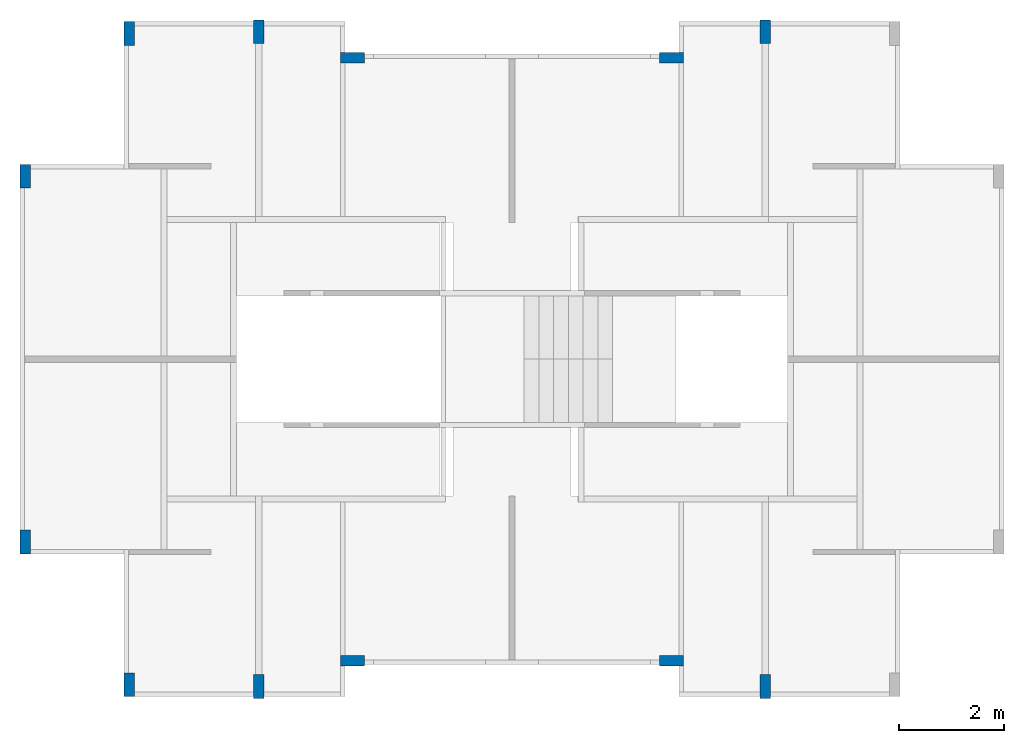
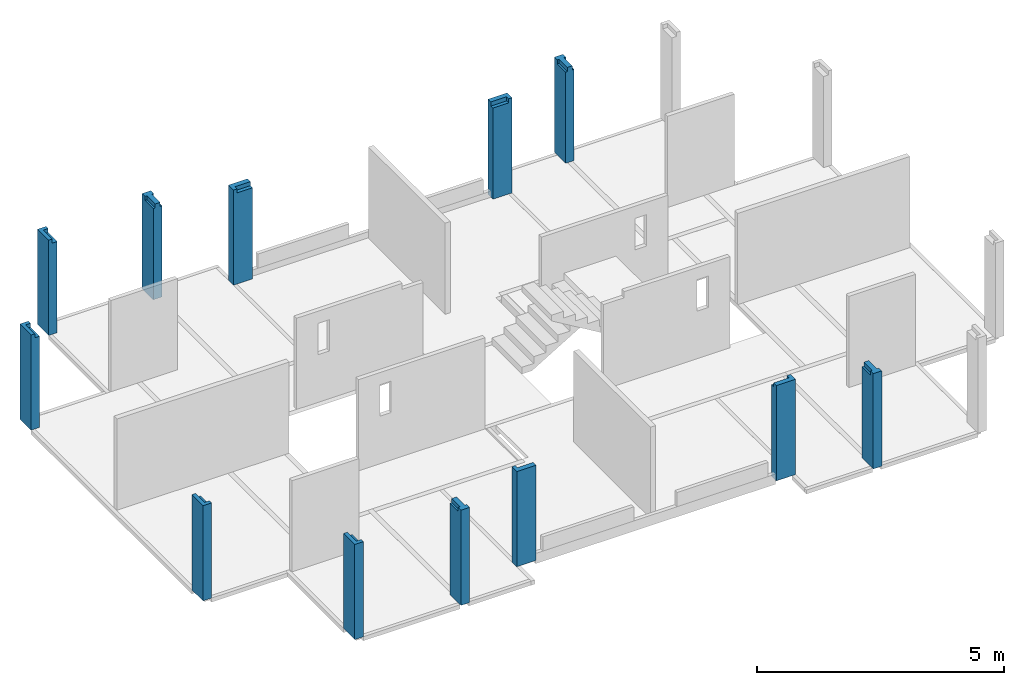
# One storey, part 5 of 6: 13 columns.
"""IFC4 building model written with IfcOpenShell, lengths in metres."""

from ifc_helpers import new_model, entity, si_unit, converted_unit, derived_unit, direction, frame, origin, place, context, subcontext, project, spatial, polygons, source, transform, mapped, material, type_object, type_shapes, element, save


model = new_model("IFC4")

# Units and contexts
model_context = context("Model", 3, precision=1e-05, world=origin(), true_north=direction((6.123031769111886e-17, 1.0)))
body_context = subcontext(model_context, "Body", "Model", "MODEL_VIEW")
ifc_project = project(units=[si_unit("LENGTHUNIT", "METRE"), si_unit("AREAUNIT", "SQUARE_METRE"), si_unit("VOLUMEUNIT", "CUBIC_METRE"), converted_unit("PLANEANGLEUNIT", "DEGREE", entity("IfcRatioMeasure", 0.017453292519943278), si_unit("PLANEANGLEUNIT", "RADIAN"), dimensions=[0, 0, 0, 0, 0, 0, 0]), si_unit("MASSUNIT", "GRAM", prefix="KILO"), derived_unit("MASSDENSITYUNIT", [(si_unit("MASSUNIT", "GRAM", prefix="KILO"), 1), (si_unit("LENGTHUNIT", "METRE"), -3)]), derived_unit("IONCONCENTRATIONUNIT", [(si_unit("MASSUNIT", "GRAM", prefix="KILO"), 1), (si_unit("LENGTHUNIT", "METRE"), -3)]), derived_unit("MOMENTOFINERTIAUNIT", [(si_unit("LENGTHUNIT", "METRE"), 4)]), si_unit("TIMEUNIT", "SECOND"), si_unit("FREQUENCYUNIT", "HERTZ"), si_unit("THERMODYNAMICTEMPERATUREUNIT", "DEGREE_CELSIUS"), derived_unit("THERMALTRANSMITTANCEUNIT", [(si_unit("MASSUNIT", "GRAM", prefix="KILO"), 1), (si_unit("THERMODYNAMICTEMPERATUREUNIT", "KELVIN"), -1), (si_unit("TIMEUNIT", "SECOND"), -3)]), derived_unit("THERMALCONDUCTANCEUNIT", [(si_unit("MASSUNIT", "GRAM", prefix="KILO"), 1), (si_unit("THERMODYNAMICTEMPERATUREUNIT", "KELVIN"), -1), (si_unit("TIMEUNIT", "SECOND"), -3), (si_unit("LENGTHUNIT", "METRE"), 1)]), derived_unit("VOLUMETRICFLOWRATEUNIT", [(si_unit("LENGTHUNIT", "METRE"), 3), (si_unit("TIMEUNIT", "SECOND"), -1)]), derived_unit("MASSFLOWRATEUNIT", [(si_unit("MASSUNIT", "GRAM", prefix="KILO"), 1), (si_unit("TIMEUNIT", "SECOND"), -1)]), derived_unit("ROTATIONALFREQUENCYUNIT", [(si_unit("TIMEUNIT", "SECOND"), -1)]), si_unit("ELECTRICCURRENTUNIT", "AMPERE"), si_unit("ELECTRICVOLTAGEUNIT", "VOLT"), si_unit("POWERUNIT", "WATT"), si_unit("FORCEUNIT", "NEWTON", prefix="KILO"), si_unit("ILLUMINANCEUNIT", "LUX"), si_unit("LUMINOUSFLUXUNIT", "LUMEN"), si_unit("LUMINOUSINTENSITYUNIT", "CANDELA"), derived_unit("USERDEFINED", [(si_unit("MASSUNIT", "GRAM", prefix="KILO"), -1), (si_unit("LENGTHUNIT", "METRE"), -2), (si_unit("TIMEUNIT", "SECOND"), 3), (si_unit("LUMINOUSFLUXUNIT", "LUMEN"), 1)]), derived_unit("USERDEFINED", [(si_unit("MASSUNIT", "GRAM", prefix="KILO"), 1), (si_unit("TIMEUNIT", "SECOND"), -3), (si_unit("LENGTHUNIT", "METRE"), 3), (si_unit("ELECTRICCURRENTUNIT", "AMPERE"), -2)]), derived_unit("SOUNDPOWERUNIT", [(si_unit("MASSUNIT", "GRAM", prefix="KILO"), 1), (si_unit("TIMEUNIT", "SECOND"), -3), (si_unit("LENGTHUNIT", "METRE"), 2)]), derived_unit("SOUNDPRESSUREUNIT", [(si_unit("MASSUNIT", "GRAM", prefix="KILO"), 1), (si_unit("LENGTHUNIT", "METRE"), -1), (si_unit("TIMEUNIT", "SECOND"), -2)]), derived_unit("LINEARVELOCITYUNIT", [(si_unit("LENGTHUNIT", "METRE"), 1), (si_unit("TIMEUNIT", "SECOND"), -1)]), si_unit("PRESSUREUNIT", "PASCAL"), derived_unit("USERDEFINED", [(si_unit("MASSUNIT", "GRAM", prefix="KILO"), 1), (si_unit("LENGTHUNIT", "METRE"), -2), (si_unit("TIMEUNIT", "SECOND"), -2)]), derived_unit("LINEARFORCEUNIT", [(si_unit("MASSUNIT", "GRAM", prefix="KILO"), 1), (si_unit("TIMEUNIT", "SECOND"), -2)]), derived_unit("PLANARFORCEUNIT", [(si_unit("MASSUNIT", "GRAM", prefix="KILO"), 1), (si_unit("LENGTHUNIT", "METRE"), -1), (si_unit("TIMEUNIT", "SECOND"), -2)]), derived_unit("SPECIFICHEATCAPACITYUNIT", [(si_unit("THERMODYNAMICTEMPERATUREUNIT", "KELVIN"), -1), (si_unit("LENGTHUNIT", "METRE"), 2), (si_unit("TIMEUNIT", "SECOND"), -2)]), derived_unit("HEATINGVALUEUNIT", [(si_unit("LENGTHUNIT", "METRE"), 2), (si_unit("TIMEUNIT", "SECOND"), -2)]), derived_unit("VAPORPERMEABILITYUNIT", [(si_unit("LENGTHUNIT", "METRE"), -1), (si_unit("TIMEUNIT", "SECOND"), 1)]), derived_unit("DYNAMICVISCOSITYUNIT", [(si_unit("MASSUNIT", "GRAM", prefix="KILO"), 1), (si_unit("TIMEUNIT", "SECOND"), -1), (si_unit("LENGTHUNIT", "METRE"), -1)]), derived_unit("THERMALEXPANSIONCOEFFICIENTUNIT", [(si_unit("THERMODYNAMICTEMPERATUREUNIT", "KELVIN"), -1)]), derived_unit("MODULUSOFELASTICITYUNIT", [(si_unit("MASSUNIT", "GRAM", prefix="KILO"), 1), (si_unit("LENGTHUNIT", "METRE"), -1), (si_unit("TIMEUNIT", "SECOND"), -2)]), derived_unit("ISOTHERMALMOISTURECAPACITYUNIT", [(si_unit("LENGTHUNIT", "METRE"), 3), (si_unit("MASSUNIT", "GRAM", prefix="KILO"), -1)]), derived_unit("MOISTUREDIFFUSIVITYUNIT", [(si_unit("TIMEUNIT", "SECOND"), -1), (si_unit("LENGTHUNIT", "METRE"), 2)])], contexts=[model_context])

# Site, building, storey
site_placement = place(None, origin())
site = spatial("IfcSite", under=ifc_project, at=site_placement, Name="Default", CompositionType="ELEMENT")
building_placement = place(site_placement, origin())
building = spatial("IfcBuilding", under=site, at=building_placement, Name="Las nubes", CompositionType="ELEMENT")
storey_placement = place(building_placement, frame((0.0, 0.0, 4.700000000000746)))
storey = spatial("IfcBuildingStorey", under=building, at=storey_placement, Name="PISO 3", CompositionType="ELEMENT", Elevation=4.700000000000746)

# Columns
ifc_material = material(Name="Concrete, Cast-in-Place gray", Category="Materials")
column_type_1 = type_object("IfcColumnType", Name="M_Concrete-Rectangular-Column:300 x 450mm", PredefinedType="COLUMN", material=ifc_material)
shared_shape_1 = source(origin(), body_context, "Body", "Tessellation", [
    polygons([(0.19999999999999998, 0.45000000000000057, -5.414335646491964e-16), (0.19999999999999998, 5.414335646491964e-16, -5.414335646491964e-16), (0.0, 5.414335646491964e-16, -5.414335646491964e-16), (0.0, 0.45000000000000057, -5.414335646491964e-16), (0.19999999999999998, 0.45000000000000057, 2.250000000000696), (0.19999999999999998, 0.45000000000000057, 2.3500000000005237), (0.19999999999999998, 0.36499999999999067, 2.3500000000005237), (0.19999999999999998, 0.36499999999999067, 2.250000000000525), (0.19999999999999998, 5.414335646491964e-16, 2.250000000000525), (0.08499999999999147, 5.414335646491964e-16, 2.250000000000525), (0.08499999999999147, 5.414335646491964e-16, 2.3500000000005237), (0.0, 5.414335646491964e-16, 2.3500000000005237), (0.0, 5.414335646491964e-16, 2.250000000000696), (0.0, 0.45000000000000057, 2.3500000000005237), (0.08499999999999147, 0.36499999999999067, 2.3500000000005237), (0.08499999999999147, 0.36499999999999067, 2.250000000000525)], [[[1, 2, 3, 4]], [[2, 1, 5, 6, 7, 8, 9]], [[3, 2, 9, 10, 11, 12, 13]], [[4, 3, 13, 12, 14]], [[1, 4, 14, 6, 5]], [[14, 12, 11, 15, 7, 6]], [[8, 16, 10, 9]], [[16, 15, 11, 10]], [[15, 16, 8, 7]]], closed=True),
])
type_shapes(column_type_1, [shared_shape_1])
column_1_placement = place(storey_placement, frame((-0.027499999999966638, -3.175000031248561, 0.0)))
element("IfcColumn", 1, at=column_1_placement, inside=storey, type_object=column_type_1, material=ifc_material, Name="M_Concrete-Rectangular-Column:300 x 450mm", ObjectType="M_Concrete-Rectangular-Column:300 x 450mm", PredefinedType="COLUMN", context=body_context, shape_type="MappedRepresentation", body=[
    mapped(shared_shape_1, transform((0.0, 0.0, 0.0), scale=1.0)),
])
column_type_2 = type_object("IfcColumnType", Name="M_Concrete-Rectangular-Column:300 x 450mm", PredefinedType="COLUMN", material=ifc_material)
shared_shape_2 = source(origin(), body_context, "Body", "Tessellation", [
    polygons([(0.19999999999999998, 0.45000000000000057, -5.414335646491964e-16), (0.19999999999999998, 0.0, -5.414335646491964e-16), (0.0, 0.0, -5.414335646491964e-16), (0.0, 0.45000000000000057, -5.414335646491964e-16), (0.19999999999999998, 0.45000000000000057, 2.250000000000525), (0.19999999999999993, 0.08499488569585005, 2.250000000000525), (0.19999999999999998, 0.08499488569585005, 2.3500000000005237), (0.19999999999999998, 0.0, 2.3500000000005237), (0.19999999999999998, 0.0, 2.250000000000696), (0.0, 0.0, 2.3500000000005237), (0.0, 0.45000000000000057, 2.3500000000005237), (0.0, 0.45000000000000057, 2.250000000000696), (0.08500000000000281, 0.45000000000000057, 2.3500000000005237), (0.08500000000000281, 0.45000000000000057, 2.250000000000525), (0.08500000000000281, 0.08499488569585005, 2.3500000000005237), (0.08500000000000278, 0.08499488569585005, 2.250000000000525)], [[[1, 2, 3, 4]], [[2, 1, 5, 6, 7, 8, 9]], [[3, 2, 9, 8, 10]], [[4, 3, 10, 11, 12]], [[1, 4, 12, 11, 13, 14, 5]], [[10, 8, 7, 15, 13, 11]], [[14, 16, 6, 5]], [[16, 15, 7, 6]], [[15, 16, 14, 13]]], closed=True),
])
type_shapes(column_type_2, [shared_shape_2])
column_2_placement = place(storey_placement, frame((-0.02749999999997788, -10.124994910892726, 0.0)))
element("IfcColumn", 2, at=column_2_placement, inside=storey, type_object=column_type_2, material=ifc_material, Name="M_Concrete-Rectangular-Column:300 x 450mm", ObjectType="M_Concrete-Rectangular-Column:300 x 450mm", PredefinedType="COLUMN", context=body_context, shape_type="MappedRepresentation", body=[
    mapped(shared_shape_2, transform((0.0, 0.0, 0.0), scale=1.0)),
])
column_type_3 = type_object("IfcColumnType", Name="M_Concrete-Rectangular-Column:300 x 450mm", PredefinedType="COLUMN", material=ifc_material)
shared_shape_3 = source(origin(), body_context, "Body", "Tessellation", [
    polygons([(0.2, 0.45, -5.414335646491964e-16), (0.2, 6.767919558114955e-17, -5.414335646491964e-16), (0.0, 6.767919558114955e-17, -5.414335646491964e-16), (0.0, 0.45, -5.414335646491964e-16), (0.2, 0.45, 2.3500000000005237), (0.2, 0.3649999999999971, 2.3500000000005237), (0.2, 0.3649999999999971, 2.250000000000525), (0.2, 6.767919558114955e-17, 2.250000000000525), (0.08500000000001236, 6.767919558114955e-17, 2.250000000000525), (0.08500000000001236, 6.767919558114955e-17, 2.3500000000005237), (0.0, 6.767919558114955e-17, 2.3500000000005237), (0.0, 6.767919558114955e-17, 2.250000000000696), (0.0, 0.45, 2.3500000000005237), (0.08500000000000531, 0.3649999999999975, 2.3500000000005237), (0.08500000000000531, 0.3649999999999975, 2.250000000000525)], [[[1, 2, 3, 4]], [[2, 1, 5, 6, 7, 8]], [[3, 2, 8, 9, 10, 11, 12]], [[4, 3, 12, 11, 13]], [[1, 4, 13, 5]], [[13, 11, 10, 14, 6, 5]], [[15, 9, 8, 7]], [[14, 15, 7, 6]], [[15, 14, 10, 9]]], closed=True),
])
type_shapes(column_type_3, [shared_shape_3])
column_3_placement = place(storey_placement, frame((1.94749999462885, -0.46000002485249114, 0.0)))
element("IfcColumn", 3, at=column_3_placement, inside=storey, type_object=column_type_3, material=ifc_material, Name="M_Concrete-Rectangular-Column:300 x 450mm", ObjectType="M_Concrete-Rectangular-Column:300 x 450mm", PredefinedType="COLUMN", context=body_context, shape_type="MappedRepresentation", body=[
    mapped(shared_shape_3, transform((0.0, 0.0, 0.0), scale=1.0)),
])
column_type_4 = type_object("IfcColumnType", Name="M_Concrete-Rectangular-Column:300 x 450mm", PredefinedType="COLUMN", material=ifc_material)
shared_shape_4 = source(origin(), body_context, "Body", "Tessellation", [
    polygons([(0.2, 0.45000000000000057, -5.414335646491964e-16), (0.2, 6.09112760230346e-16, -5.414335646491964e-16), (0.0, 6.09112760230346e-16, -5.414335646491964e-16), (0.0, 0.45000000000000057, -5.414335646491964e-16), (0.2, 0.45000000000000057, 2.3500000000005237), (0.2, 0.42002052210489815, 2.350000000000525), (0.2, 0.3350000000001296, 2.3500000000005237), (0.2, 0.3350000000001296, 2.250000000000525), (0.2, 6.09112760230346e-16, 2.250000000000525), (0.15749999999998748, 3.383959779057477e-16, 2.250000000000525), (0.15749999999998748, 6.09112760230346e-16, 2.3500000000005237), (0.04249999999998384, 6.09112760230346e-16, 2.3500000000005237), (0.04249999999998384, 6.09112760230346e-16, 2.250000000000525), (0.0, 6.09112760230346e-16, 2.250000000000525), (0.0, 0.33500000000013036, 2.250000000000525), (0.0, 0.33500000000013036, 2.3500000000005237), (0.0, 0.4200205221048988, 2.350000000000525), (0.0, 0.45000000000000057, 2.3500000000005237), (0.042499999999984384, 0.3350000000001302, 2.3500000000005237), (0.15749999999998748, 0.3350000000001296, 2.3500000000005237), (0.042499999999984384, 0.3350000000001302, 2.250000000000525), (0.15749999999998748, 0.3350000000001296, 2.250000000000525)], [[[1, 2, 3, 4]], [[2, 1, 5, 6, 7, 8, 9]], [[3, 2, 9, 10, 11, 12, 13, 14]], [[4, 3, 14, 15, 16, 17, 18]], [[1, 4, 18, 5]], [[5, 18, 17, 16, 19, 12, 11, 20, 7, 6]], [[13, 21, 15, 14]], [[21, 19, 16, 15]], [[19, 21, 13, 12]], [[8, 22, 10, 9]], [[22, 20, 11, 10]], [[20, 22, 8, 7]]], closed=True),
])
type_shapes(column_type_4, [shared_shape_4])
column_4_placement = place(storey_placement, frame((4.409999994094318, -0.4300000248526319, 0.0)))
element("IfcColumn", 4, at=column_4_placement, inside=storey, type_object=column_type_4, material=ifc_material, Name="M_Concrete-Rectangular-Column:300 x 450mm", ObjectType="M_Concrete-Rectangular-Column:300 x 450mm", PredefinedType="COLUMN", context=body_context, shape_type="MappedRepresentation", body=[
    mapped(shared_shape_4, transform((0.0, 0.0, 0.0), scale=1.0)),
])
column_type_5 = type_object("IfcColumnType", Name="M_Concrete-Rectangular-Column:300 x 450mm", PredefinedType="COLUMN", material=ifc_material)
shared_shape_5 = source(origin(), body_context, "Body", "Tessellation", [
    polygons([(2.1657342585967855e-15, 0.20000000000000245, -5.414335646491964e-16), (0.45000000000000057, 0.2, -5.414335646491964e-16), (0.45000000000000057, 0.0, -5.414335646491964e-16), (1.0828671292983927e-15, 2.436451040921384e-15, -5.414335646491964e-16), (1.0828671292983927e-15, 0.20000000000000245, 2.250000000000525), (2.1657342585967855e-15, 0.20000000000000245, 2.3500000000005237), (0.08500000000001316, 0.2000000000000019, 2.350000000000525), (0.45000000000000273, 0.2, 2.3500000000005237), (0.45000000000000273, 0.08500000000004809, 2.3500000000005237), (0.45000000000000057, 0.08500000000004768, 2.2500000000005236), (0.45000000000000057, 0.0, 2.250000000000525), (0.08500000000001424, 1.7596590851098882e-15, 2.250000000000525), (0.08500000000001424, 2.0303758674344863e-15, 2.3500000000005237), (1.0828671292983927e-15, 2.436451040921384e-15, 2.3500000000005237), (1.0828671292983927e-15, 2.436451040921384e-15, 2.250000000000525), (0.08500000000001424, 0.08500000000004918, 2.3500000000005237), (0.08500000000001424, 0.08500000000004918, 2.250000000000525)], [[[1, 2, 3, 4]], [[2, 1, 5, 6, 7, 8]], [[3, 2, 8, 9, 10, 11]], [[4, 3, 11, 12, 13, 14, 15]], [[1, 4, 15, 14, 6, 5]], [[8, 7, 6, 14, 13, 16, 9]], [[10, 17, 12, 11]], [[17, 16, 13, 12]], [[16, 17, 10, 9]]], closed=True),
])
type_shapes(column_type_5, [shared_shape_5])
column_5_placement = place(storey_placement, frame((6.067499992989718, -0.7950000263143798, 0.0)))
element("IfcColumn", 5, at=column_5_placement, inside=storey, type_object=column_type_5, material=ifc_material, Name="M_Concrete-Rectangular-Column:300 x 450mm", ObjectType="M_Concrete-Rectangular-Column:300 x 450mm", PredefinedType="COLUMN", context=body_context, shape_type="MappedRepresentation", body=[
    mapped(shared_shape_5, transform((0.0, 0.0, 0.0), scale=1.0)),
])
column_type_6 = type_object("IfcColumnType", Name="M_Concrete-Rectangular-Column:300 x 450mm", PredefinedType="COLUMN", material=ifc_material)
shared_shape_6 = source(origin(), body_context, "Body", "Tessellation", [
    polygons([(0.0, 6.09112760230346e-16, -5.414335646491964e-16), (0.0, 0.45000000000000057, -5.414335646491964e-16), (0.2, 0.45000000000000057, -5.414335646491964e-16), (0.2, 6.09112760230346e-16, -5.414335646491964e-16), (0.0, 6.09112760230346e-16, 2.250000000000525), (0.0, 0.3350000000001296, 2.250000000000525), (0.0, 0.3350000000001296, 2.3500000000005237), (0.0, 0.41999999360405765, 2.350000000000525), (0.0, 0.45000000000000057, 2.3500000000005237), (0.2, 5.414335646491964e-16, 2.250000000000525), (0.15749999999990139, 3.383959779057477e-16, 2.250000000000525), (0.15749999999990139, 5.414335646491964e-16, 2.3500000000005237), (0.04249999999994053, 6.09112760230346e-16, 2.3500000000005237), (0.04249999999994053, 3.383959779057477e-16, 2.2500000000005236), (0.2, 0.45000000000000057, 2.3500000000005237), (0.2, 0.41999999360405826, 2.350000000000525), (0.2, 0.33500000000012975, 2.3500000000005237), (0.2, 0.33500000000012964, 2.250000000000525), (0.04249999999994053, 0.3350000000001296, 2.3500000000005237), (0.15749999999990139, 0.3350000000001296, 2.3500000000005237), (0.04249999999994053, 0.3350000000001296, 2.250000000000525), (0.15749999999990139, 0.3350000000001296, 2.250000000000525)], [[[1, 2, 3, 4]], [[2, 1, 5, 6, 7, 8, 9]], [[1, 4, 10, 11, 12, 13, 14, 5]], [[4, 3, 15, 16, 17, 18, 10]], [[3, 2, 9, 15]], [[15, 9, 8, 7, 19, 13, 12, 20, 17, 16]], [[14, 21, 6, 5]], [[21, 19, 7, 6]], [[19, 21, 14, 13]], [[18, 22, 11, 10]], [[20, 22, 18, 17]], [[22, 20, 12, 11]]], closed=True),
])
type_shapes(column_type_6, [shared_shape_6])
column_6_placement = place(storey_placement, frame((14.035000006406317, -0.4300000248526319, 0.0)))
element("IfcColumn", 6, at=column_6_placement, inside=storey, type_object=column_type_6, material=ifc_material, Name="M_Concrete-Rectangular-Column:300 x 450mm", ObjectType="M_Concrete-Rectangular-Column:300 x 450mm", PredefinedType="COLUMN", context=body_context, shape_type="MappedRepresentation", body=[
    mapped(shared_shape_6, transform((0.0, 0.0, 0.0), scale=1.0)),
])
column_type_7 = type_object("IfcColumnType", Name="M_Concrete-Rectangular-Column:300 x 450mm", PredefinedType="COLUMN", material=ifc_material)
shared_shape_7 = source(origin(), body_context, "Body", "Tessellation", [
    polygons([(0.0, 0.2, -5.414335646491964e-16), (0.4500000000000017, 0.20000000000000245, -5.414335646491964e-16), (0.4500000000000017, 2.436451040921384e-15, -5.414335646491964e-16), (0.0, 0.0, -5.414335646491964e-16), (0.0, 0.2, 2.3500000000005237), (0.364999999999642, 0.2000000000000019, 2.350000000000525), (0.4500000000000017, 0.20000000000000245, 2.3500000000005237), (0.4500000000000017, 0.20000000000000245, 2.250000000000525), (0.0, 0.0, 2.250000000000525), (0.0, 0.08500000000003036, 2.250000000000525), (0.0, 0.08500000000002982, 2.3500000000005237), (0.4500000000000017, 2.436451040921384e-15, 2.250000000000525), (0.4500000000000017, 2.436451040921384e-15, 2.3500000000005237), (0.36499999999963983, 2.0303758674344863e-15, 2.3500000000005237), (0.36499999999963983, 2.1657342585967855e-15, 2.250000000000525), (0.36499999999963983, 0.08500000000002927, 2.3500000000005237), (0.36499999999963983, 0.08500000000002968, 2.250000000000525)], [[[1, 2, 3, 4]], [[2, 1, 5, 6, 7, 8]], [[1, 4, 9, 10, 11, 5]], [[4, 3, 12, 13, 14, 15, 9]], [[3, 2, 8, 7, 13, 12]], [[7, 6, 5, 11, 16, 14, 13]], [[15, 17, 10, 9]], [[17, 16, 11, 10]], [[16, 17, 15, 14]]], closed=True),
])
type_shapes(column_type_7, [shared_shape_7])
column_7_placement = place(storey_placement, frame((12.127500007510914, -0.7950000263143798, 0.0)))
element("IfcColumn", 7, at=column_7_placement, inside=storey, type_object=column_type_7, material=ifc_material, Name="M_Concrete-Rectangular-Column:300 x 450mm", ObjectType="M_Concrete-Rectangular-Column:300 x 450mm", PredefinedType="COLUMN", context=body_context, shape_type="MappedRepresentation", body=[
    mapped(shared_shape_7, transform((0.0, 0.0, 0.0), scale=1.0)),
])
column_type_8 = type_object("IfcColumnType", Name="M_Concrete-Rectangular-Column:300 x 450mm", PredefinedType="COLUMN", material=ifc_material)
shared_shape_8 = source(origin(), body_context, "Body", "Tessellation", [
    polygons([(0.20000000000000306, 0.4500000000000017, -5.414335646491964e-16), (0.19999999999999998, 2.1657342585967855e-15, -5.414335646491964e-16), (4.229949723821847e-18, 2.1657342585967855e-15, -5.414335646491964e-16), (3.0794033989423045e-15, 0.4500000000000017, -5.414335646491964e-16), (0.20000000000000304, 0.45000000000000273, 2.250000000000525), (0.2000000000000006, 0.08499999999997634, 2.250000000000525), (0.2000000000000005, 0.08499999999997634, 2.3500000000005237), (0.19999999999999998, 0.0, 2.3500000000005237), (3.0751734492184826e-15, 0.45000000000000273, 2.250000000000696), (3.0794033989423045e-15, 0.4500000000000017, 2.3500000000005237), (0.08500000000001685, 0.4500000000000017, 2.3500000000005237), (0.08500000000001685, 0.4500000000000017, 2.250000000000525), (4.229949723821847e-18, 2.1657342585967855e-15, 2.3500000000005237), (0.08500000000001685, 0.08499999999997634, 2.3500000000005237), (0.08500000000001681, 0.08499999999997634, 2.250000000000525)], [[[1, 2, 3, 4]], [[2, 1, 5, 6, 7, 8]], [[1, 4, 9, 10, 11, 12, 5]], [[4, 3, 13, 10, 9]], [[3, 2, 8, 13]], [[10, 13, 8, 7, 14, 11]], [[12, 15, 6, 5]], [[15, 14, 7, 6]], [[14, 15, 12, 11]]], closed=True),
])
type_shapes(column_type_8, [shared_shape_8])
column_8_placement = place(storey_placement, frame((-0.027499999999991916, -10.125000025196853, 0.0)))
element("IfcColumn", 8, at=column_8_placement, inside=storey, type_object=column_type_8, material=ifc_material, Name="M_Concrete-Rectangular-Column:300 x 450mm", ObjectType="M_Concrete-Rectangular-Column:300 x 450mm", PredefinedType="COLUMN", context=body_context, shape_type="MappedRepresentation", body=[
    mapped(shared_shape_8, transform((0.0, 0.0, 0.0), scale=1.0)),
])
column_type_9 = type_object("IfcColumnType", Name="M_Concrete-Rectangular-Column:300 x 450mm", PredefinedType="COLUMN", material=ifc_material)
shared_shape_9 = source(origin(), body_context, "Body", "Tessellation", [
    polygons([(0.20000000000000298, 0.4500000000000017, -5.414335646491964e-16), (0.19999999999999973, 0.0, -5.414335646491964e-16), (-2.707167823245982e-16, 2.1657342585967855e-15, -5.414335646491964e-16), (2.97788460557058e-15, 0.4500000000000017, -5.414335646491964e-16), (0.20000000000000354, 0.45000000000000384, 2.250000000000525), (0.20000000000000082, 0.08499999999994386, 2.250000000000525), (0.20000000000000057, 0.08499999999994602, 2.3500000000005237), (0.19999999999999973, 0.0, 2.3500000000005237), (0.2, 2.1657342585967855e-15, 2.250000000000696), (3.2486013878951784e-15, 0.45000000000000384, 2.250000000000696), (2.97788460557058e-15, 0.4500000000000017, 2.3500000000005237), (0.08500000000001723, 0.4500000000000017, 2.3500000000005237), (0.08500000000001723, 0.45000000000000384, 2.250000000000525), (-2.707167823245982e-16, 2.1657342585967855e-15, 2.3500000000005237), (0.08500000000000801, 0.08499999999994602, 2.3500000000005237), (0.08500000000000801, 0.08499999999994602, 2.250000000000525)], [[[1, 2, 3, 4]], [[2, 1, 5, 6, 7, 8, 9]], [[1, 4, 10, 11, 12, 13, 5]], [[4, 3, 14, 11, 10]], [[3, 2, 9, 8, 14]], [[11, 14, 8, 7, 15, 12]], [[16, 6, 5, 13]], [[16, 15, 7, 6]], [[15, 16, 13, 12]]], closed=True),
])
type_shapes(column_type_9, [shared_shape_9])
column_9_placement = place(storey_placement, frame((1.9474999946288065, -12.840000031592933, 0.0)))
element("IfcColumn", 9, at=column_9_placement, inside=storey, type_object=column_type_9, material=ifc_material, Name="M_Concrete-Rectangular-Column:300 x 450mm", ObjectType="M_Concrete-Rectangular-Column:300 x 450mm", PredefinedType="COLUMN", context=body_context, shape_type="MappedRepresentation", body=[
    mapped(shared_shape_9, transform((0.0, 0.0, 0.0), scale=1.0)),
])
column_type_10 = type_object("IfcColumnType", Name="M_Concrete-Rectangular-Column:300 x 450mm", PredefinedType="COLUMN", material=ifc_material)
shared_shape_10 = source(origin(), body_context, "Body", "Tessellation", [
    polygons([(0.20000000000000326, 0.4499999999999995, -5.414335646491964e-16), (0.2, -2.1657342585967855e-15, -5.414335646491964e-16), (0.0, 0.0, -5.414335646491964e-16), (3.2486013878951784e-15, 0.4499999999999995, -5.414335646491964e-16), (0.20000000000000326, 0.4499999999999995, 2.250000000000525), (0.2000000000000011, 0.11499999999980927, 2.250000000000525), (0.20000000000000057, 0.11499999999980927, 2.3500000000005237), (0.2, 0.029999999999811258, 2.350000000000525), (0.2, -2.1657342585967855e-15, 2.3500000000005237), (3.2486013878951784e-15, 0.4499999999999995, 2.250000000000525), (0.042499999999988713, 0.4500000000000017, 2.250000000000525), (0.04249999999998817, 0.4499999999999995, 2.3500000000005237), (0.15750000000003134, 0.4499999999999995, 2.3500000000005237), (0.15750000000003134, 0.4500000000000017, 2.250000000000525), (0.0, 0.0, 2.3500000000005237), (0.0, 0.029999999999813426, 2.350000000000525), (5.414335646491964e-16, 0.1149999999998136, 2.3500000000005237), (5.414335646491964e-16, 0.1149999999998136, 2.250000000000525), (0.15750000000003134, 0.11499999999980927, 2.3500000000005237), (0.04249999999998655, 0.1149999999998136, 2.3500000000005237), (0.04249999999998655, 0.1149999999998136, 2.250000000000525), (0.15750000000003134, 0.11499999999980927, 2.250000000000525)], [[[1, 2, 3, 4]], [[2, 1, 5, 6, 7, 8, 9]], [[1, 4, 10, 11, 12, 13, 14, 5]], [[4, 3, 15, 16, 17, 18, 10]], [[3, 2, 9, 15]], [[15, 9, 8, 7, 19, 13, 12, 20, 17, 16]], [[18, 21, 11, 10]], [[20, 21, 18, 17]], [[21, 20, 12, 11]], [[14, 22, 6, 5]], [[22, 19, 7, 6]], [[19, 22, 14, 13]]], closed=True),
])
type_shapes(column_type_10, [shared_shape_10])
column_10_placement = place(storey_placement, frame((4.4099999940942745, -12.870000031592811, 0.0)))
element("IfcColumn", 10, at=column_10_placement, inside=storey, type_object=column_type_10, material=ifc_material, Name="M_Concrete-Rectangular-Column:300 x 450mm", ObjectType="M_Concrete-Rectangular-Column:300 x 450mm", PredefinedType="COLUMN", context=body_context, shape_type="MappedRepresentation", body=[
    mapped(shared_shape_10, transform((0.0, 0.0, 0.0), scale=1.0)),
])
column_type_11 = type_object("IfcColumnType", Name="M_Concrete-Rectangular-Column:300 x 450mm", PredefinedType="COLUMN", material=ifc_material)
shared_shape_11 = source(origin(), body_context, "Body", "Tessellation", [
    polygons([(0.4499999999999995, 0.0, -5.414335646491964e-16), (0.0, 0.0, -5.414335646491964e-16), (0.0, 0.2, -5.414335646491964e-16), (0.4499999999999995, 0.2, -5.414335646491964e-16), (0.4499999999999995, 0.0, 2.3500000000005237), (0.08500000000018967, 0.0, 2.350000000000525), (0.0, 0.0, 2.3500000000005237), (0.0, 0.0, 2.250000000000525), (0.4499999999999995, 0.2, 2.250000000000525), (0.4499999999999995, 0.11500000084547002, 2.250000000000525), (0.4499999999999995, 0.11500000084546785, 2.3500000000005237), (0.0, 0.2, 2.250000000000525), (0.0, 0.2, 2.3500000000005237), (0.08500000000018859, 0.2, 2.3500000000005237), (0.08500000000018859, 0.2, 2.250000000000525), (0.08500000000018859, 0.11500000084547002, 2.3500000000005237), (0.08500000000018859, 0.11500000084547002, 2.250000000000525)], [[[1, 2, 3, 4]], [[2, 1, 5, 6, 7, 8]], [[1, 4, 9, 10, 11, 5]], [[4, 3, 12, 13, 14, 15, 9]], [[3, 2, 8, 7, 13, 12]], [[7, 6, 5, 11, 16, 14, 13]], [[15, 17, 10, 9]], [[17, 16, 11, 10]], [[16, 17, 15, 14]]], closed=True),
])
type_shapes(column_type_11, [shared_shape_11])
column_11_placement = place(storey_placement, frame((6.067499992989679, -12.255000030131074, 0.0)))
element("IfcColumn", 11, at=column_11_placement, inside=storey, type_object=column_type_11, material=ifc_material, Name="M_Concrete-Rectangular-Column:300 x 450mm", ObjectType="M_Concrete-Rectangular-Column:300 x 450mm", PredefinedType="COLUMN", context=body_context, shape_type="MappedRepresentation", body=[
    mapped(shared_shape_11, transform((0.0, 0.0, 0.0), scale=1.0)),
])
column_type_12 = type_object("IfcColumnType", Name="M_Concrete-Rectangular-Column:300 x 450mm", PredefinedType="COLUMN", material=ifc_material)
shared_shape_12 = source(origin(), body_context, "Body", "Tessellation", [
    polygons([(0.0, 0.0, -5.414335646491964e-16), (2.1657342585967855e-15, 0.4499999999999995, -5.414335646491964e-16), (0.20000000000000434, 0.4499999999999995, -5.414335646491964e-16), (0.2, -2.1657342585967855e-15, -5.414335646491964e-16), (0.0, 0.0, 2.3500000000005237), (0.0, 0.030001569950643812, 2.350000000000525), (0.0, 0.11499999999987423, 2.3500000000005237), (2.1657342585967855e-15, 0.11499999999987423, 2.250000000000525), (6.497202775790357e-15, 0.4499999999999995, 2.250000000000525), (0.04249999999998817, 0.4499999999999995, 2.250000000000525), (0.04249999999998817, 0.4499999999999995, 2.3500000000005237), (0.15749999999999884, 0.44999999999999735, 2.3500000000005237), (0.15749999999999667, 0.4499999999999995, 2.250000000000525), (0.20000000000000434, 0.4499999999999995, 2.250000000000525), (0.2, 0.11499999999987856, 2.250000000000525), (0.2, 0.11499999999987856, 2.3500000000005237), (0.2, 0.03000156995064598, 2.350000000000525), (0.2, -2.1657342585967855e-15, 2.3500000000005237), (0.15749999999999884, 0.11499999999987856, 2.3500000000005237), (0.04249999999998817, 0.11499999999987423, 2.3500000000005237), (0.04249999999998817, 0.11499999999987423, 2.250000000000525), (0.15749999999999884, 0.11499999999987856, 2.250000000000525)], [[[1, 2, 3, 4]], [[2, 1, 5, 6, 7, 8, 9]], [[3, 2, 9, 10, 11, 12, 13, 14]], [[4, 3, 14, 15, 16, 17, 18]], [[1, 4, 18, 5]], [[5, 18, 17, 16, 19, 12, 11, 20, 7, 6]], [[21, 10, 9, 8]], [[20, 21, 8, 7]], [[21, 20, 11, 10]], [[13, 22, 15, 14]], [[22, 19, 16, 15]], [[19, 22, 13, 12]]], closed=True),
])
type_shapes(column_type_12, [shared_shape_12])
column_12_placement = place(storey_placement, frame((14.035000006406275, -12.870000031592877, 0.0)))
element("IfcColumn", 12, at=column_12_placement, inside=storey, type_object=column_type_12, material=ifc_material, Name="M_Concrete-Rectangular-Column:300 x 450mm", ObjectType="M_Concrete-Rectangular-Column:300 x 450mm", PredefinedType="COLUMN", context=body_context, shape_type="MappedRepresentation", body=[
    mapped(shared_shape_12, transform((0.0, 0.0, 0.0), scale=1.0)),
])
column_type_13 = type_object("IfcColumnType", Name="M_Concrete-Rectangular-Column:300 x 450mm", PredefinedType="COLUMN", material=ifc_material)
shared_shape_13 = source(origin(), body_context, "Body", "Tessellation", [
    polygons([(0.45000000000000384, 0.0, -5.414335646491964e-16), (2.1657342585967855e-15, 6.497202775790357e-15, -5.414335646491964e-16), (6.497202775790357e-15, 0.2000000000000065, -5.414335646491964e-16), (0.450000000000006, 0.2, -5.414335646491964e-16), (0.4500000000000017, 0.0, 2.250000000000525), (0.45000000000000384, 0.0, 2.3500000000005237), (0.3649999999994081, 0.0, 2.350000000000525), (2.1657342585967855e-15, 6.497202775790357e-15, 2.3500000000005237), (4.331468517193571e-15, 0.1150000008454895, 2.3500000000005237), (4.331468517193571e-15, 0.1150000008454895, 2.250000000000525), (4.331468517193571e-15, 0.20000000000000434, 2.250000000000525), (0.36499999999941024, 0.20000000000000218, 2.250000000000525), (0.36499999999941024, 0.2, 2.3500000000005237), (0.450000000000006, 0.2, 2.3500000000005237), (0.450000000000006, 0.2, 2.250000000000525), (0.36499999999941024, 0.11500000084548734, 2.3500000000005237), (0.36499999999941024, 0.11500000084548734, 2.250000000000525)], [[[1, 2, 3, 4]], [[2, 1, 5, 6, 7, 8]], [[3, 2, 8, 9, 10, 11]], [[4, 3, 11, 12, 13, 14, 15]], [[1, 4, 15, 14, 6, 5]], [[8, 7, 6, 14, 13, 16, 9]], [[10, 17, 12, 11]], [[17, 16, 13, 12]], [[16, 17, 10, 9]]], closed=True),
])
type_shapes(column_type_13, [shared_shape_13])
column_13_placement = place(storey_placement, frame((12.127500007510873, -12.255000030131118, 0.0)))
element("IfcColumn", 13, at=column_13_placement, inside=storey, type_object=column_type_13, material=ifc_material, Name="M_Concrete-Rectangular-Column:300 x 450mm", ObjectType="M_Concrete-Rectangular-Column:300 x 450mm", PredefinedType="COLUMN", context=body_context, shape_type="MappedRepresentation", body=[
    mapped(shared_shape_13, transform((0.0, 0.0, 0.0), scale=1.0)),
])

save(model, "model.ifc")
